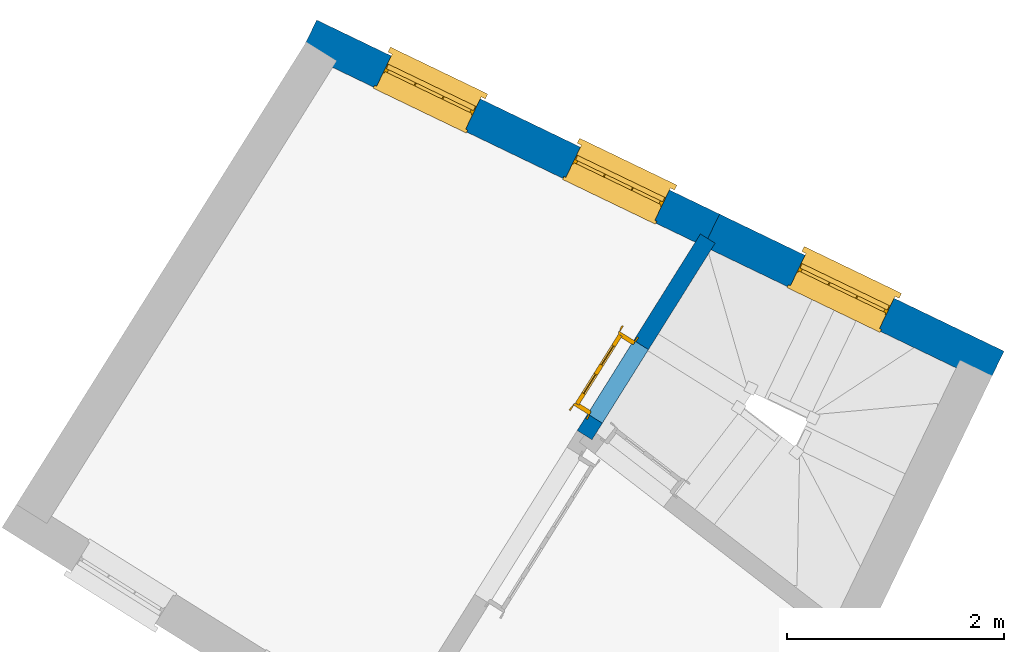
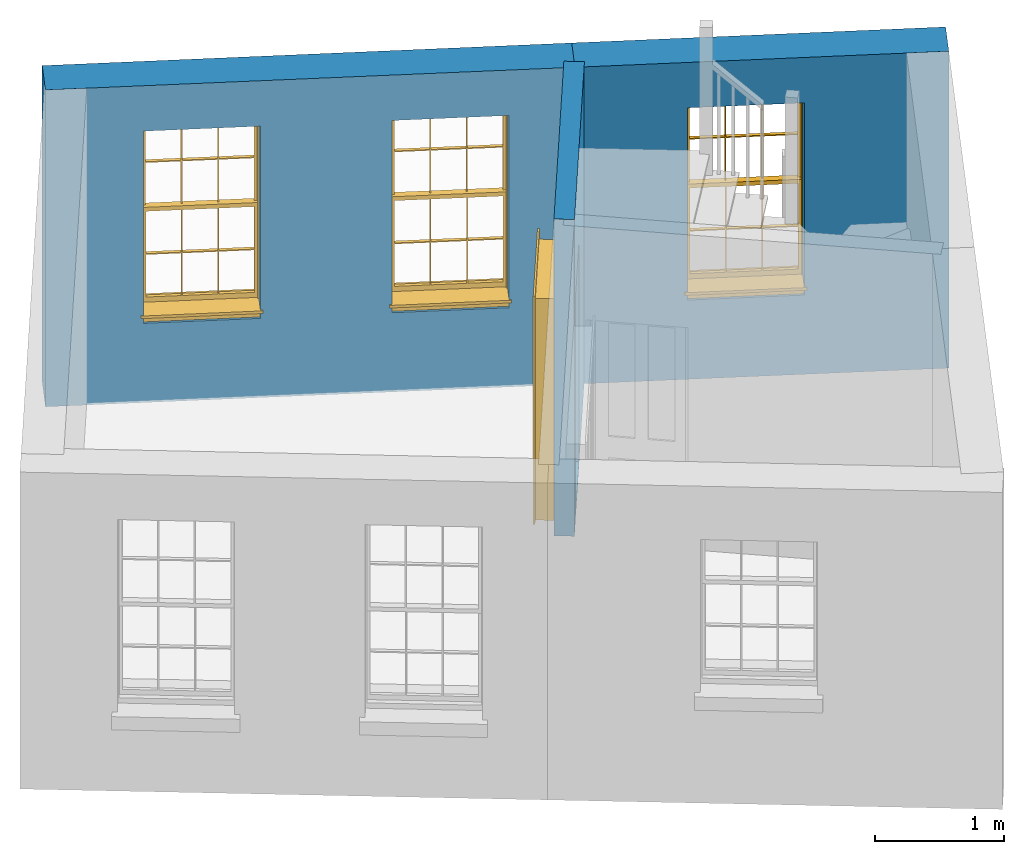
# One storey, part 3 of 4: 3 walls, 3 windows, 1 door, 4 openings.
"""IFC4 building model written with IfcOpenShell, lengths in metres."""

from ifc_helpers import new_model, si_unit, frame, origin, origin_with_axes, place, context, subcontext, project, spatial, polyline, outline, extrude, faceted_brep, source, transform, mapped, material, layer, layer_set, layer_usage, type_object, type_shapes, element, fill, save


model = new_model("IFC4")

# Units and contexts
model_context = context("Model", 3, world=origin_with_axes())
body_context = subcontext(model_context, "Body", "Model", "MODEL_VIEW")
ifc_project = project(units=[si_unit("PLANEANGLEUNIT", "RADIAN"), si_unit("MASSUNIT", "GRAM", prefix="KILO"), si_unit("FORCEUNIT", "NEWTON", prefix="KILO"), si_unit("LENGTHUNIT", "METRE"), si_unit("AREAUNIT", "SQUARE_METRE"), si_unit("VOLUMEUNIT", "CUBIC_METRE")], contexts=[model_context, model_context])

# Sites, building, storey
site_1_placement = place(None, origin_with_axes())
site_1 = spatial("IfcSite", under=ifc_project, at=site_1_placement, Name="Tamar")
site_2_placement = place(site_1_placement, origin_with_axes())
site_2 = spatial("IfcSite", under=site_1, at=site_2_placement, Name="Site plot-0", CompositionType="ELEMENT")
building_placement = place(None, origin_with_axes())
building = spatial("IfcBuilding", under=site_2, at=building_placement, Name="Building plot-0", CompositionType="ELEMENT")
storey_placement = place(None, frame((0.0, 0.0, 29.3), z_axis=(0.0, 0.0, 1.0), x_axis=(1.0, 0.0, 0.0)))
storey = spatial("IfcBuildingStorey", under=building, at=storey_placement, Name="plot-0 1", CompositionType="ELEMENT", Elevation=29.3)

# Wall, opening, window
ifc_material_1 = material(Name="Masonry")
ifc_layer_1 = layer(ifc_material_1, 0.33, ventilated=False)
ifc_layer_set_1 = layer_set([ifc_layer_1], Name="exterior_0.08_0.25")
ifc_layer_usage_1 = layer_usage(ifc_layer_set_1, "AXIS2", "POSITIVE", -0.25)
wall_type_1 = type_object("IfcWallType", Name="exterior_0.08_0.25", PredefinedType="SOLIDWALL", material=ifc_layer_set_1)
wall_1_placement = place(storey_placement, frame((221.398308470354, 300.079731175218, 0.0), z_axis=(0.0, 0.0, 1.0), x_axis=(-0.900856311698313, 0.434117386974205, 0.0)))
wall_1 = element("IfcWall", 1, at=wall_1_placement, inside=storey, type_object=wall_type_1, material=ifc_layer_usage_1, Name="exterior", context=body_context, shape_type="SweptSolid", body=[
    extrude(outline(polyline([(-0.249999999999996, 0.0799999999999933), (-0.249999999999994, -0.250000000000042), (2.65789805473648, -0.250000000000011), (2.65789805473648, 0.0800000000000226), (-0.249999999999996, 0.0799999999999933)])), origin_with_axes(), (0.0, 0.0, 1.0), 3.0),
])
opening_1_placement = place(wall_1_placement, frame((0.873949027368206, 0.0, 0.75)))
opening_1 = element("IfcOpeningElement", 2, at=opening_1_placement, cuts=wall_1, Name="My Opening", ObjectType="Opening", context=body_context, shape_type="SweptSolid", body=[
    extrude(outline(polyline([(0.0, -0.269999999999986), (0.910000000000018, -0.269999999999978), (0.910000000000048, 1.09999999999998), (3.05311331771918e-14, 1.09999999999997), (0.0, -0.269999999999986)])), origin_with_axes(), (0.0, 0.0, 1.0), 1.82),
])
window_type = type_object("IfcWindowType", Name="sash_big", PartitioningType="DOUBLE_PANEL_HORIZONTAL", PredefinedType="NOTDEFINED")
shared_shape_1 = source(origin(), body_context, "Body", "Brep", [
    faceted_brep([(0.033125, 0.145, 0.975209), (0.01, 0.145, 0.975209), (0.033125, 0.145, 1.376042), (0.876875, 0.145, 0.975209), (0.876875, 0.145, 1.376042), (0.9, 0.145, 0.975209), (0.876875, 0.145, 1.386042), (0.876875, 0.145, 1.786875), (0.9, 0.145, 1.81), (0.033125, 0.145, 1.786875), (0.033125, 0.145, 1.386042), (0.01, 0.145, 1.81), (0.876875, 0.115, 1.376042), (0.876875, 0.115, 0.975209), (0.9, 0.115, 0.937083), (0.033125, 0.115, 1.786875), (0.01, 0.115, 1.81), (0.033125, 0.115, 1.386042), (0.01, 0.115, 0.937083), (0.033125, 0.115, 0.975209), (0.033125, 0.115, 1.376042), (0.876875, 0.115, 1.786875), (0.876875, 0.115, 1.386042), (0.9, 0.115, 1.81), (0.033125, 0.145, 0.937083), (0.01, 0.145, 0.937083), (0.033125, 0.145, 0.53625), (0.876875, 0.145, 0.937083), (0.876875, 0.145, 0.53625), (0.9, 0.145, 0.937083), (0.876875, 0.145, 0.52625), (0.876875, 0.145, 0.125417), (0.9, 0.145, 0.077167), (0.033125, 0.145, 0.125417), (0.033125, 0.145, 0.52625), (0.01, 0.145, 0.077167), (-0.0425, 0.0, 0.01), (-0.0425, -0.05, 0.001667), (0.0, 0.0, 0.01), (0.9525, 0.0, 0.01), (0.91, 0.0, 0.01), (0.9525, -0.05, 0.001667), (-0.02, 0.33, 0.077167), (0.0, 0.33, 0.077167), (-0.02, 0.36, 0.077167), (0.0, 0.19, 0.077167), (0.01, 0.19, 0.077167), (0.91, 0.19, 0.077167), (0.91, 0.33, 0.077167), (0.9, 0.19, 0.077167), (0.93, 0.33, 0.077167), (0.93, 0.36, 0.077167), (0.01, 0.175, 0.975209), (0.9, 0.175, 0.975209), (0.876875, 0.175, 0.125417), (0.876875, 0.175, 0.52625), (0.9, 0.175, 0.077167), (0.876875, 0.175, 0.53625), (0.876875, 0.175, 0.937083), (0.033125, 0.175, 0.125417), (0.01, 0.175, 0.077167), (0.033125, 0.175, 0.52625), (0.033125, 0.175, 0.937083), (0.033125, 0.175, 0.53625), (-0.02, 0.33, 0.052167), (-0.02, 0.36, 0.052167), (0.93, 0.36, 0.052167), (0.93, 0.33, 0.052167), (0.91, 0.33, 0.052167), (0.0, 0.33, 0.052167), (0.91, 0.1, 0.026667), (0.0, 0.1, 0.026667), (-0.0425, -0.05, -0.123333), (0.9525, -0.05, -0.123333), (-0.0425, 0.0, -0.123333), (0.9525, 0.0, -0.123333), (0.01, 0.19, 1.81), (0.9, 0.19, 1.81), (0.0, 0.19, 1.82), (0.91, 0.19, 1.82), (0.01, 0.1, 0.077167), (0.9, 0.1, 0.077167), (0.592292, 0.145, 0.125417), (0.592292, 0.175, 0.125417), (0.317708, 0.175, 0.125417), (0.317708, 0.145, 0.125417), (0.592292, 0.145, 0.53625), (0.317708, 0.145, 0.53625), (0.317708, 0.145, 0.52625), (0.592292, 0.145, 0.52625), (0.592292, 0.175, 0.53625), (0.317708, 0.175, 0.53625), (0.592292, 0.115, 1.386042), (0.592292, 0.145, 1.386042), (0.317708, 0.145, 1.386042), (0.317708, 0.115, 1.386042), (0.317708, 0.115, 1.376042), (0.592292, 0.115, 1.376042), (0.317708, 0.145, 1.376042), (0.592292, 0.145, 1.376042), (0.602292, 0.115, 1.376042), (0.592292, 0.115, 0.975209), (0.602292, 0.115, 0.975209), (0.602292, 0.145, 0.975209), (0.592292, 0.145, 0.975209), (0.602292, 0.145, 1.376042), (0.602292, 0.175, 0.53625), (0.602292, 0.145, 0.53625), (0.317708, 0.175, 0.52625), (0.307708, 0.175, 0.125417), (0.307708, 0.175, 0.52625), (0.602292, 0.175, 0.52625), (0.602292, 0.175, 0.125417), (0.592292, 0.175, 0.52625), (0.307708, 0.175, 0.53625), (0.317708, 0.175, 0.937083), (0.307708, 0.175, 0.937083), (0.602292, 0.175, 0.937083), (0.592292, 0.175, 0.937083), (0.307708, 0.145, 0.52625), (0.307708, 0.145, 0.125417), (0.307708, 0.145, 0.53625), (0.307708, 0.145, 0.937083), (0.592292, 0.145, 0.937083), (0.317708, 0.145, 0.937083), (0.602292, 0.145, 0.937083), (0.602292, 0.145, 0.52625), (0.602292, 0.145, 0.125417), (0.307708, 0.115, 1.386042), (0.307708, 0.115, 1.376042), (0.307708, 0.115, 0.975209), (0.317708, 0.115, 0.975209), (0.317708, 0.115, 1.786875), (0.307708, 0.115, 1.786875), (0.602292, 0.115, 1.786875), (0.592292, 0.115, 1.786875), (0.602292, 0.115, 1.386042), (0.602292, 0.145, 1.386042), (0.307708, 0.145, 1.386042), (0.307708, 0.145, 1.786875), (0.317708, 0.145, 1.786875), (0.592292, 0.145, 1.786875), (0.602292, 0.145, 1.786875), (0.307708, 0.145, 1.376042), (0.317708, 0.145, 0.975209), (0.307708, 0.145, 0.975209), (0.91, 0.1, 1.82), (0.9, 0.1, 1.81), (0.01, 0.1, 1.81), (0.0, 0.1, 1.82), (0.91, 0.0, 0.0), (0.0, 0.0, 0.0), (0.91, 0.33, 0.0), (0.0, 0.33, 0.0)], [[[0, 1, 2]], [[3, 4, 5]], [[6, 7, 8]], [[9, 10, 11]], [[12, 13, 14]], [[15, 16, 17]], [[18, 19, 20]], [[21, 22, 23]], [[24, 25, 26]], [[27, 28, 29]], [[30, 31, 32]], [[33, 34, 35]], [[14, 27, 29]], [[25, 24, 18]], [[36, 37, 38]], [[39, 40, 41]], [[42, 43, 44]], [[45, 46, 43]], [[47, 48, 49]], [[50, 51, 48]], [[1, 0, 52]], [[5, 53, 3]], [[54, 55, 56]], [[57, 58, 53]], [[59, 60, 61]], [[62, 63, 52]], [[48, 43, 46, 49]], [[51, 44, 43, 48]], [[64, 42, 44, 65]], [[65, 44, 51, 66]], [[66, 51, 50, 67]], [[65, 66, 68, 69]], [[60, 56, 49, 46]], [[70, 71, 38, 40]], [[37, 41, 40, 38]], [[37, 72, 73, 41]], [[74, 75, 73, 72]], [[8, 11, 76, 77]], [[76, 78, 79, 77]], [[32, 35, 80, 81]], [[81, 80, 71, 70]], [[82, 83, 84, 85]], [[86, 87, 88, 89]], [[86, 90, 91, 87]], [[92, 93, 94, 95]], [[92, 95, 96, 97]], [[96, 98, 99, 97]], [[100, 97, 101, 102]], [[103, 104, 99, 105]], [[97, 99, 104, 101]], [[102, 103, 105, 100]], [[28, 57, 106, 107]], [[108, 84, 109, 110]], [[111, 112, 83, 113]], [[114, 110, 61, 63]], [[90, 113, 108, 91]], [[115, 91, 114, 116]], [[117, 106, 90, 118]], [[111, 106, 57, 55]], [[119, 110, 109, 120]], [[34, 61, 110, 119]], [[89, 113, 83, 82]], [[88, 108, 113, 89]], [[85, 84, 108, 88]], [[121, 114, 63, 26]], [[122, 116, 114, 121]], [[123, 118, 90, 86]], [[87, 91, 115, 124]], [[107, 106, 117, 125]], [[126, 111, 55, 30]], [[127, 112, 111, 126]], [[126, 30, 28, 107]], [[88, 119, 120, 85]], [[126, 89, 82, 127]], [[125, 123, 86, 107]], [[121, 26, 34, 119]], [[124, 122, 121, 87]], [[128, 17, 20, 129]], [[96, 129, 130, 131]], [[132, 133, 128, 95]], [[134, 135, 92, 136]], [[100, 12, 22, 136]], [[137, 6, 4, 105]], [[94, 138, 139, 140]], [[137, 93, 141, 142]], [[99, 98, 94, 93]], [[143, 2, 10, 138]], [[144, 145, 143, 98]], [[129, 143, 145, 130]], [[20, 2, 143, 129]], [[131, 144, 98, 96]], [[128, 138, 10, 17]], [[133, 139, 138, 128]], [[135, 141, 93, 92]], [[95, 94, 140, 132]], [[22, 6, 137, 136]], [[136, 137, 142, 134]], [[100, 105, 4, 12]], [[107, 86, 89, 126]], [[106, 111, 113, 90]], [[91, 108, 110, 114]], [[87, 121, 119, 88]], [[97, 100, 136, 92]], [[129, 96, 95, 128]], [[98, 143, 138, 94]], [[105, 99, 93, 137]], [[131, 101, 104, 144]], [[124, 115, 118, 123]], [[132, 140, 141, 135]], [[120, 109, 59, 33]], [[15, 9, 139, 133]], [[134, 142, 7, 21]], [[31, 54, 112, 127]], [[36, 74, 72, 37]], [[39, 41, 73, 75]], [[18, 14, 101, 131]], [[23, 16, 132, 135]], [[83, 56, 60, 84]], [[52, 53, 118, 115]], [[53, 52, 144, 104]], [[11, 8, 141, 140]], [[14, 18, 124, 123]], [[2, 1, 11, 10]], [[8, 5, 4, 6]], [[57, 53, 56, 55]], [[60, 52, 63, 61]], [[26, 25, 35, 34]], [[32, 29, 28, 30]], [[14, 23, 22, 12]], [[18, 20, 17, 16]], [[19, 0, 2, 20]], [[17, 10, 9, 15]], [[12, 4, 3, 13]], [[21, 7, 6, 22]], [[27, 58, 57, 28]], [[30, 55, 54, 31]], [[33, 59, 61, 34]], [[26, 63, 62, 24]], [[5, 8, 77, 53]], [[76, 11, 1, 52]], [[46, 45, 78, 76]], [[49, 77, 79, 47]], [[70, 146, 147, 81]], [[71, 80, 148, 149]], [[19, 130, 145, 0]], [[102, 13, 3, 103]], [[116, 122, 24, 62]], [[29, 32, 81, 14]], [[80, 35, 25, 18]], [[60, 46, 76, 52]], [[77, 49, 56, 53]], [[23, 14, 81, 147]], [[16, 148, 80, 18]], [[35, 85, 120]], [[120, 33, 35]], [[127, 82, 32]], [[32, 31, 127]], [[32, 82, 85, 35]], [[102, 101, 14]], [[14, 13, 102]], [[18, 131, 130]], [[130, 19, 18]], [[134, 21, 23]], [[23, 135, 134]], [[16, 15, 133]], [[133, 132, 16]], [[11, 140, 139]], [[139, 9, 11]], [[142, 141, 8]], [[8, 7, 142]], [[23, 147, 148, 16]], [[146, 149, 148, 147]], [[52, 115, 116]], [[116, 62, 52]], [[118, 53, 117]], [[58, 117, 53]], [[27, 125, 117, 58]], [[56, 83, 112]], [[112, 54, 56]], [[109, 84, 60]], [[60, 59, 109]], [[125, 27, 14]], [[14, 123, 125]], [[122, 124, 18]], [[18, 24, 122]], [[145, 144, 52]], [[52, 0, 145]], [[103, 3, 53]], [[53, 104, 103]], [[79, 78, 149, 146]], [[78, 45, 71, 149]], [[146, 70, 47, 79]], [[150, 75, 74, 151]], [[68, 66, 67]], [[48, 68, 67, 50]], [[69, 64, 65]], [[42, 64, 69, 43]], [[69, 68, 152, 153]], [[70, 68, 48, 47]], [[150, 152, 68, 70]], [[43, 69, 71, 45]], [[69, 153, 151, 71]], [[152, 150, 151, 153]], [[38, 151, 74, 36]], [[71, 151, 38]], [[39, 75, 150, 40]], [[40, 150, 70]]]),
])
type_shapes(window_type, [shared_shape_1])
window_1_placement = place(storey_placement, frame((220.72821766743, 300.702358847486, 0.75), z_axis=(0.0, 0.0, 1.0), x_axis=(-0.819779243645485, 0.395046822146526, 0.0)))
window_1 = element("IfcWindow", 3, at=window_1_placement, inside=storey, type_object=window_type, Name="circulation outside window", OverallHeight=1.82, OverallWidth=0.91, context=body_context, shape_type="MappedRepresentation", body=[
    mapped(shared_shape_1, transform((0.0, 0.0, 0.0), scale=1.0)),
])
fill(opening_1, window_1)

# Wall, openings, windows
wall_2_placement = place(storey_placement, frame((219.003924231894, 301.233570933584, 0.0), z_axis=(0.0, 0.0, 1.0), x_axis=(-0.900856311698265, 0.434117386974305, 0.0)))
wall_2 = element("IfcWall", 4, at=wall_2_placement, inside=storey, type_object=wall_type_1, material=ifc_layer_usage_1, Name="exterior", context=body_context, shape_type="SweptSolid", body=[
    extrude(outline(polyline([(-5.96366039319e-15, 0.0800000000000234), (3.22672869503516e-14, -0.250000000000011), (4.11834124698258, -0.25000000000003), (4.11834124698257, 0.0800000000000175), (-5.96366039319e-15, 0.0800000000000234)])), origin_with_axes(), (0.0, 0.0, 1.0), 3.0),
])
opening_2_placement = place(wall_2_placement, frame((0.512085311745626, 0.0, 0.75)))
opening_2 = element("IfcOpeningElement", 5, at=opening_2_placement, cuts=wall_2, Name="My Opening", ObjectType="Opening", context=body_context, shape_type="SweptSolid", body=[
    extrude(outline(polyline([(0.0, -0.270000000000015), (0.909999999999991, -0.269999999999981), (0.910000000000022, 1.09999999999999), (3.11972669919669e-14, 1.09999999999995), (0.0, -0.270000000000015)])), origin_with_axes(), (0.0, 0.0, 1.0), 1.82),
])
opening_3_placement = place(wall_2_placement, frame((2.44625593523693, 0.0, 0.75)))
opening_3 = element("IfcOpeningElement", 6, at=opening_3_placement, cuts=wall_2, Name="My Opening", ObjectType="Opening", context=body_context, shape_type="SweptSolid", body=[
    extrude(outline(polyline([(0.0, -0.270000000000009), (0.909999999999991, -0.269999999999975), (0.910000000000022, 1.09999999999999), (3.06421554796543e-14, 1.09999999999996), (0.0, -0.270000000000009)])), origin_with_axes(), (0.0, 0.0, 1.0), 1.82),
])
window_2_placement = place(storey_placement, frame((218.659820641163, 301.699107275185, 0.75), z_axis=(0.0, 0.0, 1.0), x_axis=(-0.819779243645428, 0.395046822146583, 0.0)))
window_2 = element("IfcWindow", 7, at=window_2_placement, inside=storey, type_object=window_type, Name="living outside window", OverallHeight=1.82, OverallWidth=0.91, context=body_context, shape_type="MappedRepresentation", body=[
    mapped(shared_shape_1, transform((0.0, 0.0, 0.0), scale=1.0)),
])
fill(opening_2, window_2)
window_3_placement = place(storey_placement, frame((216.91741082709, 302.538764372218, 0.75), z_axis=(0.0, 0.0, 1.0), x_axis=(-0.819779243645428, 0.395046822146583, 0.0)))
window_3 = element("IfcWindow", 8, at=window_3_placement, inside=storey, type_object=window_type, Name="living outside window", OverallHeight=1.82, OverallWidth=0.91, context=body_context, shape_type="MappedRepresentation", body=[
    mapped(shared_shape_1, transform((0.0, 0.0, 0.0), scale=1.0)),
])
fill(opening_3, window_3)

# Wall, opening, door
ifc_material_2 = material(Name="Masonry")
ifc_layer_2 = layer(ifc_material_2, 0.16, ventilated=False)
ifc_layer_set_2 = layer_set([ifc_layer_2], Name="interior_0.08_0.08")
ifc_layer_usage_2 = layer_usage(ifc_layer_set_2, "AXIS2", "POSITIVE", -0.08)
wall_type_2 = type_object("IfcWallType", Name="interior_0.08_0.08", PredefinedType="SOLIDWALL", material=ifc_layer_set_2)
wall_3_placement = place(storey_placement, frame((217.869712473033, 299.423331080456, 0.0), z_axis=(0.0, 0.0, 1.0), x_axis=(0.53094514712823, 0.847406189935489, 0.0)))
wall_3 = element("IfcWall", 9, at=wall_3_placement, inside=storey, type_object=wall_type_2, material=ifc_layer_usage_2, Name="interior", context=body_context, shape_type="SweptSolid", body=[
    extrude(outline(polyline([(4.58789923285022e-15, 0.0800000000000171), (-4.57810205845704e-15, -0.0800000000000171), (2.13621268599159, -0.0800000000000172), (2.1362126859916, 0.0800000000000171), (4.58789923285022e-15, 0.0800000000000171)])), origin_with_axes(), (0.0, 0.0, 1.0), 3.0),
])
opening_4_placement = place(wall_3_placement, frame((0.179999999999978, 0.0, 0.0199999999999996)))
opening_4 = element("IfcOpeningElement", 10, at=opening_4_placement, cuts=wall_3, Name="My Opening", ObjectType="Opening", context=body_context, shape_type="SweptSolid", body=[
    extrude(outline(polyline([(0.0, -0.0999999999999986), (0.800000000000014, -0.100000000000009), (0.800000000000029, 1.10000000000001), (1.48214773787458e-14, 1.10000000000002), (0.0, -0.0999999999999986)])), origin_with_axes(), (0.0, 0.0, 1.0), 2.1),
])
door_type = type_object("IfcDoorType", Name="door_inside", OperationType="SINGLE_SWING_LEFT", PredefinedType="NOTDEFINED")
shared_shape_2 = source(origin(), body_context, "Body", "Brep", [
    faceted_brep([(0.773, 0.33, 1.895), (0.66, 0.33, 1.895), (0.66, 0.33, 2.073), (0.773, 0.33, 2.073), (0.773, 0.33, 0.82), (0.66, 0.33, 0.82), (0.45, 0.33, 1.895), (0.45, 0.33, 2.073), (0.773, 0.33, 0.62), (0.66, 0.33, 0.62), (0.66, 0.315, 0.82), (0.66, 0.315, 1.895), (0.45, 0.315, 1.895), (0.35, 0.33, 1.895), (0.35, 0.33, 2.073), (0.773, 0.33, 0.225), (0.66, 0.33, 0.225), (0.45, 0.33, 0.62), (0.45, 0.33, 0.82), (0.45, 0.315, 0.82), (0.35, 0.33, 0.82), (0.14, 0.33, 2.073), (0.14, 0.33, 1.895), (0.773, 0.33, 0.0), (0.66, 0.33, 0.0), (0.66, 0.315, 0.225), (0.66, 0.315, 0.62), (0.45, 0.315, 0.62), (0.35, 0.33, 0.62), (0.35, 0.315, 0.82), (0.35, 0.315, 1.895), (0.14, 0.315, 1.895), (0.027, 0.33, 2.073), (0.027, 0.33, 1.895), (0.773, 0.292, 0.0), (0.66, 0.292, 0.0), (0.45, 0.33, 0.0), (0.45, 0.33, 0.225), (0.45, 0.315, 0.225), (0.35, 0.33, 0.225), (0.14, 0.33, 0.82), (0.14, 0.33, 0.62), (0.14, 0.315, 0.82), (0.027, 0.33, 0.82), (0.773, 0.292, 0.225), (0.66, 0.292, 0.225), (0.45, 0.292, 0.0), (0.35, 0.33, 0.0), (0.35, 0.315, 0.225), (0.35, 0.315, 0.62), (0.14, 0.315, 0.62), (0.027, 0.33, 0.62), (0.773, 0.292, 0.62), (0.66, 0.292, 0.62), (0.45, 0.292, 0.225), (0.35, 0.292, 0.0), (0.14, 0.33, 0.225), (0.14, 0.33, 0.0), (0.14, 0.315, 0.225), (0.027, 0.33, 0.225), (0.773, 0.292, 0.82), (0.66, 0.292, 0.82), (0.66, 0.307, 0.62), (0.66, 0.307, 0.225), (0.45, 0.307, 0.225), (0.35, 0.292, 0.225), (0.14, 0.292, 0.0), (0.027, 0.33, 0.0), (0.773, 0.292, 1.895), (0.66, 0.292, 1.895), (0.45, 0.292, 0.62), (0.45, 0.292, 0.82), (0.45, 0.307, 0.62), (0.35, 0.292, 0.62), (0.14, 0.292, 0.225), (0.027, 0.292, 0.0), (0.773, 0.292, 2.073), (0.66, 0.292, 2.073), (0.66, 0.307, 1.895), (0.66, 0.307, 0.82), (0.45, 0.307, 0.82), (0.35, 0.292, 0.82), (0.35, 0.307, 0.62), (0.35, 0.307, 0.225), (0.14, 0.307, 0.225), (0.027, 0.292, 0.225), (0.45, 0.292, 1.895), (0.45, 0.292, 2.073), (0.45, 0.307, 1.895), (0.35, 0.292, 1.895), (0.14, 0.292, 0.82), (0.14, 0.292, 0.62), (0.14, 0.307, 0.62), (0.027, 0.292, 0.62), (0.35, 0.292, 2.073), (0.35, 0.307, 1.895), (0.35, 0.307, 0.82), (0.14, 0.307, 0.82), (0.027, 0.292, 0.82), (0.14, 0.292, 2.073), (0.14, 0.292, 1.895), (0.14, 0.307, 1.895), (0.027, 0.292, 1.895), (0.027, 0.292, 2.073), (0.02, 0.335, 0.0), (0.005, 0.34, 0.0), (0.005, 0.34, 2.095), (0.02, 0.335, 2.08), (0.02, 0.33, 0.0), (0.0, 0.335, 0.0), (0.0, 0.335, 2.1), (0.795, 0.34, 2.095), (0.78, 0.335, 2.08), (0.02, 0.33, 2.08), (0.0, 0.33, 0.0), (-0.032, 0.345, 0.0), (-0.032, 0.345, 2.132), (0.8, 0.335, 2.1), (0.795, 0.34, 0.0), (0.78, 0.335, 0.0), (0.78, 0.33, 2.08), (0.04, 0.29, 0.0), (0.025, 0.29, 0.0), (0.025, 0.29, 2.075), (0.04, 0.29, 2.06), (-0.04, 0.34, 0.0), (-0.04, 0.34, 2.14), (0.832, 0.345, 2.132), (0.8, 0.335, 0.0), (0.78, 0.33, 0.0), (0.8, 0.33, 0.0), (0.86, 0.33, 0.0), (0.86, 0.33, 2.16), (0.8, 0.33, 2.1), (-0.06, 0.33, 2.16), (0.0, 0.33, 2.1), (-0.06, 0.33, 0.0), (-0.04, 0.345, 0.0), (-0.04, 0.345, 2.14), (0.84, 0.34, 2.14), (0.832, 0.345, 0.0), (0.84, 0.34, 0.0), (0.86, 0.345, 0.0), (0.86, 0.345, 2.16), (-0.06, 0.345, 2.16), (-0.06, 0.345, 0.0), (0.84, 0.345, 0.0), (0.84, 0.345, 2.14), (-0.025, 0.155, 0.0), (-0.025, 0.16, 0.0), (-0.025, 0.16, 2.125), (-0.025, 0.155, 2.125), (-0.017, 0.155, 0.0), (-0.017, 0.155, 2.117), (0.825, 0.16, 2.125), (0.825, 0.155, 2.125), (0.825, 0.155, 0.0), (0.845, 0.155, 0.0), (-0.045, 0.155, 2.145), (-0.045, 0.155, 0.0), (0.845, 0.155, 2.145), (0.015, 0.165, 0.0), (0.015, 0.165, 2.085), (0.817, 0.155, 2.117), (0.825, 0.16, 0.0), (0.845, 0.17, 0.0), (0.845, 0.17, 2.145), (-0.045, 0.17, 2.145), (-0.045, 0.17, 0.0), (0.02, 0.16, 0.0), (0.02, 0.16, 2.08), (0.785, 0.165, 2.085), (0.817, 0.155, 0.0), (0.8, 0.17, 0.0), (0.8, 0.17, 2.1), (0.0, 0.17, 2.1), (0.0, 0.17, 0.0), (0.035, 0.165, 0.0), (0.035, 0.165, 2.065), (0.78, 0.16, 2.08), (0.785, 0.165, 0.0), (0.775, 0.29, 2.075), (0.76, 0.29, 2.06), (0.035, 0.17, 2.065), (0.035, 0.17, 0.0), (0.765, 0.165, 2.065), (0.78, 0.16, 0.0), (0.765, 0.17, 0.0), (0.765, 0.17, 2.065), (0.765, 0.165, 0.0), (0.04, 0.17, 2.06), (0.04, 0.17, 0.0), (0.76, 0.17, 2.06), (0.76, 0.17, 0.0), (0.76, 0.29, 0.0), (0.775, 0.29, 0.0), (0.025, 0.33, 0.0), (0.025, 0.33, 2.075), (0.775, 0.33, 0.0), (0.775, 0.33, 2.075)], [[[0, 1, 2, 3]], [[1, 0, 4, 5]], [[1, 6, 7, 2]], [[8, 9, 5, 4]], [[1, 5, 10, 11]], [[6, 1, 11, 12]], [[6, 13, 14, 7]], [[15, 16, 9, 8]], [[9, 17, 18, 5]], [[5, 18, 19, 10]], [[10, 19, 12, 11]], [[18, 6, 12, 19]], [[18, 20, 13, 6]], [[21, 14, 13, 22]], [[23, 24, 16, 15]], [[9, 16, 25, 26]], [[17, 9, 26, 27]], [[17, 28, 20, 18]], [[13, 20, 29, 30]], [[22, 13, 30, 31]], [[32, 21, 22, 33]], [[34, 35, 24, 23]], [[24, 36, 37, 16]], [[16, 37, 38, 25]], [[25, 38, 27, 26]], [[37, 17, 27, 38]], [[37, 39, 28, 17]], [[40, 20, 28, 41]], [[20, 40, 42, 29]], [[31, 30, 29, 42]], [[40, 22, 31, 42]], [[33, 22, 40, 43]], [[35, 34, 44, 45]], [[35, 46, 36, 24]], [[36, 47, 39, 37]], [[28, 39, 48, 49]], [[41, 28, 49, 50]], [[43, 40, 41, 51]], [[45, 44, 52, 53]], [[46, 35, 45, 54]], [[46, 55, 47, 36]], [[56, 39, 47, 57]], [[39, 56, 58, 48]], [[50, 49, 48, 58]], [[56, 41, 50, 58]], [[51, 41, 56, 59]], [[53, 52, 60, 61]], [[45, 53, 62, 63]], [[54, 45, 63, 64]], [[55, 46, 54, 65]], [[55, 66, 57, 47]], [[59, 56, 57, 67]], [[61, 60, 68, 69]], [[70, 53, 61, 71]], [[53, 70, 72, 62]], [[72, 64, 63, 62]], [[70, 54, 64, 72]], [[65, 54, 70, 73]], [[65, 74, 66, 55]], [[67, 57, 66, 75]], [[69, 68, 76, 77]], [[61, 69, 78, 79]], [[71, 61, 79, 80]], [[73, 70, 71, 81]], [[65, 73, 82, 83]], [[74, 65, 83, 84]], [[74, 85, 75, 66]], [[86, 69, 77, 87]], [[69, 86, 88, 78]], [[88, 80, 79, 78]], [[86, 71, 80, 88]], [[81, 71, 86, 89]], [[73, 81, 90, 91]], [[73, 91, 92, 82]], [[83, 82, 92, 84]], [[91, 74, 84, 92]], [[91, 93, 85, 74]], [[89, 86, 87, 94]], [[81, 89, 95, 96]], [[90, 81, 96, 97]], [[90, 98, 93, 91]], [[94, 99, 100, 89]], [[89, 100, 101, 95]], [[101, 97, 96, 95]], [[100, 90, 97, 101]], [[100, 102, 98, 90]], [[99, 103, 102, 100]], [[32, 103, 99, 21]], [[102, 103, 32, 33]], [[98, 102, 33, 43]], [[21, 99, 94, 14]], [[94, 87, 7, 14]], [[7, 87, 77, 2]], [[76, 3, 2, 77]], [[43, 51, 93, 98]], [[51, 59, 85, 93]], [[67, 75, 85, 59]], [[34, 23, 15, 44]], [[44, 15, 8, 52]], [[52, 8, 4, 60]], [[0, 68, 60, 4]], [[0, 3, 76, 68]], [[104, 105, 106, 107]], [[104, 108, 109, 105]], [[105, 109, 110, 106]], [[107, 106, 111, 112]], [[107, 113, 108, 104]], [[114, 109, 108]], [[109, 115, 116, 110]], [[106, 110, 117, 111]], [[112, 111, 118, 119]], [[113, 107, 112, 120]], [[121, 122, 123, 124]], [[115, 109, 114, 125]], [[115, 125, 126, 116]], [[110, 116, 127, 117]], [[111, 117, 128, 118]], [[118, 128, 129, 119]], [[120, 112, 119, 129]], [[130, 129, 128]], [[130, 131, 132, 133]], [[133, 132, 134, 135]], [[135, 134, 136, 114]], [[136, 125, 114]], [[125, 137, 138, 126]], [[116, 126, 139, 127]], [[117, 127, 140, 128]], [[141, 130, 128, 140]], [[131, 130, 141]], [[131, 142, 143, 132]], [[132, 143, 144, 134]], [[134, 144, 145, 136]], [[137, 125, 136, 145]], [[143, 142, 146]], [[143, 146, 147]], [[137, 145, 144]], [[143, 147, 138]], [[138, 137, 144]], [[143, 138, 144]], [[126, 138, 147, 139]], [[127, 139, 141, 140]], [[142, 131, 141, 146]], [[139, 147, 146, 141]], [[148, 149, 150, 151]], [[149, 152, 153, 150]], [[151, 150, 154, 155]], [[155, 156, 157]], [[158, 159, 148]], [[158, 148, 151]], [[155, 157, 160]], [[158, 151, 155]], [[155, 160, 158]], [[152, 161, 162, 153]], [[150, 153, 163, 154]], [[155, 154, 164, 156]], [[156, 164, 165, 157]], [[157, 165, 166, 160]], [[160, 166, 167, 158]], [[158, 167, 168, 159]], [[161, 169, 170, 162]], [[153, 162, 171, 163]], [[154, 163, 172, 164]], [[165, 164, 173]], [[165, 173, 174, 166]], [[166, 174, 175, 167]], [[167, 175, 176, 168]], [[169, 177, 178, 170]], [[162, 170, 179, 171]], [[163, 171, 180, 172]], [[172, 180, 173, 164]], [[124, 123, 181, 182]], [[183, 178, 177, 184]], [[170, 178, 185, 179]], [[171, 179, 186, 180]], [[187, 173, 180]], [[185, 188, 187, 189]], [[188, 185, 178, 183]], [[179, 185, 189, 186]], [[189, 187, 180, 186]], [[190, 183, 184, 191]], [[192, 188, 183, 190]], [[191, 184, 122, 121]], [[124, 190, 191, 121]], [[193, 187, 188, 192]], [[182, 192, 190, 124]], [[184, 176, 122]], [[194, 195, 187, 193]], [[192, 182, 194, 193]], [[161, 176, 184]], [[114, 108, 122, 176]], [[173, 187, 195]], [[152, 149, 176, 161]], [[169, 161, 184, 177]], [[196, 122, 108]], [[176, 175, 135, 114]], [[173, 195, 129, 130]], [[176, 149, 168]], [[123, 122, 196, 197]], [[196, 108, 113, 197]], [[175, 174, 133, 135]], [[198, 129, 195]], [[133, 174, 173, 130]], [[159, 168, 149, 148]], [[181, 123, 197, 199]], [[197, 113, 120, 199]], [[199, 120, 129, 198]], [[195, 181, 199, 198]], [[195, 194, 182, 181]]]),
])
type_shapes(door_type, [shared_shape_2])
door_placement = place(storey_placement, frame((218.05002321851, 299.522769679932, 0.0199999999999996), z_axis=(0.0, 0.0, 1.0), x_axis=(0.4247561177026, 0.677924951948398, 0.0)))
door = element("IfcDoor", 11, at=door_placement, inside=storey, type_object=door_type, Name="living inside door", OverallHeight=2.1, OverallWidth=0.8, context=body_context, shape_type="MappedRepresentation", body=[
    mapped(shared_shape_2, transform((0.0, 0.0, 0.0), scale=1.0)),
])
fill(opening_4, door)

save(model, "model.ifc")
